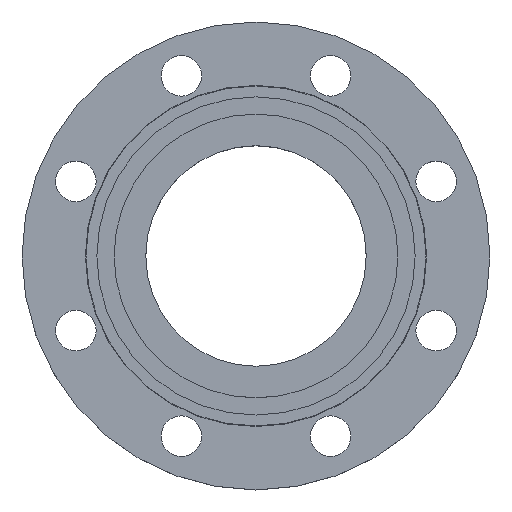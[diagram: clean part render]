
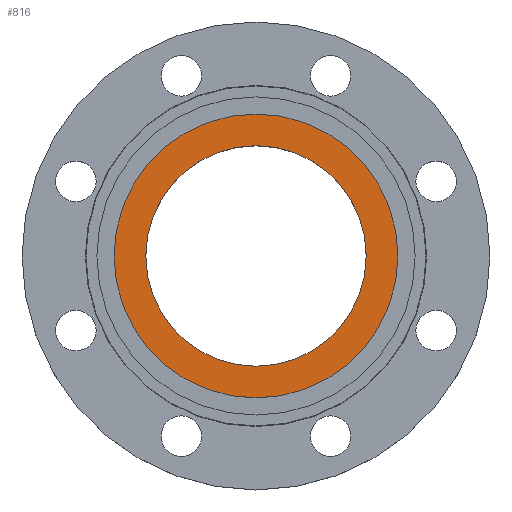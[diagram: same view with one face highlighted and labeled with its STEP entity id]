
A CAD part, top view. The second image highlights one B-rep face of the part: STEP entity #816.
In plain terms, the highlighted planar face has unit normal (0, 0, 1).
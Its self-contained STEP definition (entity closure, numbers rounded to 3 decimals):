
#5 = FACE_BOUND ( 'NONE', #713, .T. ) ;
#10 = DIRECTION ( 'NONE',  ( -1., 0., 0. ) ) ;
#12 = DIRECTION ( 'NONE',  ( 0., 0., -1. ) ) ;
#13 = CARTESIAN_POINT ( 'NONE',  ( 0., 0., 0. ) ) ;
#27 = DIRECTION ( 'NONE',  ( 1., 0., 0. ) ) ;
#30 = DIRECTION ( 'NONE',  ( 0., 0., 1. ) ) ;
#34 = CARTESIAN_POINT ( 'NONE',  ( 0., 0., 0. ) ) ;
#43 = AXIS2_PLACEMENT_3D ( 'NONE', #997, #504, #542 ) ;
#96 = CARTESIAN_POINT ( 'NONE',  ( -91., 0., 0. ) ) ;
#105 = CARTESIAN_POINT ( 'NONE',  ( -70.67, 0., 0. ) ) ;
#119 = CARTESIAN_POINT ( 'NONE',  ( 70.67, 0., 0. ) ) ;
#202 = DIRECTION ( 'NONE',  ( 0., 0., -1. ) ) ;
#212 = CARTESIAN_POINT ( 'NONE',  ( 0., 0., 0. ) ) ;
#218 = CIRCLE ( 'NONE', #240, 70.67 ) ;
#240 = AXIS2_PLACEMENT_3D ( 'NONE', #434, #403, #430 ) ;
#266 = CIRCLE ( 'NONE', #427, 70.67 ) ;
#279 = FACE_OUTER_BOUND ( 'NONE', #717, .T. ) ;
#290 = AXIS2_PLACEMENT_3D ( 'NONE', #212, #202, #900 ) ;
#339 = EDGE_CURVE ( 'NONE', #686, #662, #218, .T. ) ;
#374 = CARTESIAN_POINT ( 'NONE',  ( 91., 0., 0. ) ) ;
#403 = DIRECTION ( 'NONE',  ( 0., 0., 1. ) ) ;
#427 = AXIS2_PLACEMENT_3D ( 'NONE', #34, #30, #27 ) ;
#430 = DIRECTION ( 'NONE',  ( 1., 0., 0. ) ) ;
#434 = CARTESIAN_POINT ( 'NONE',  ( 0., 0., 0. ) ) ;
#489 = AXIS2_PLACEMENT_3D ( 'NONE', #13, #12, #10 ) ;
#504 = DIRECTION ( 'NONE',  ( 0., 0., 1. ) ) ;
#521 = CIRCLE ( 'NONE', #290, 91. ) ;
#542 = DIRECTION ( 'NONE',  ( 1., 0., 0. ) ) ;
#662 = VERTEX_POINT ( 'NONE', #119 ) ;
#686 = VERTEX_POINT ( 'NONE', #105 ) ;
#694 = VERTEX_POINT ( 'NONE', #96 ) ;
#713 = EDGE_LOOP ( 'NONE', ( #1043, #1044 ) ) ;
#717 = EDGE_LOOP ( 'NONE', ( #1045, #1046 ) ) ;
#793 = EDGE_CURVE ( 'NONE', #662, #686, #266, .T. ) ;
#803 = EDGE_CURVE ( 'NONE', #1176, #694, #957, .T. ) ;
#816 = ADVANCED_FACE ( 'NONE', ( #5, #279 ), #1022, .T. ) ;
#840 = EDGE_CURVE ( 'NONE', #694, #1176, #521, .T. ) ;
#900 = DIRECTION ( 'NONE',  ( -1., 0., 0. ) ) ;
#957 = CIRCLE ( 'NONE', #489, 91. ) ;
#997 = CARTESIAN_POINT ( 'NONE',  ( 0., 0., 0. ) ) ;
#1022 = PLANE ( 'NONE',  #43 ) ;
#1043 = ORIENTED_EDGE ( 'NONE', *, *, #793, .F. ) ;
#1044 = ORIENTED_EDGE ( 'NONE', *, *, #339, .F. ) ;
#1045 = ORIENTED_EDGE ( 'NONE', *, *, #840, .F. ) ;
#1046 = ORIENTED_EDGE ( 'NONE', *, *, #803, .F. ) ;
#1176 = VERTEX_POINT ( 'NONE', #374 ) ;
